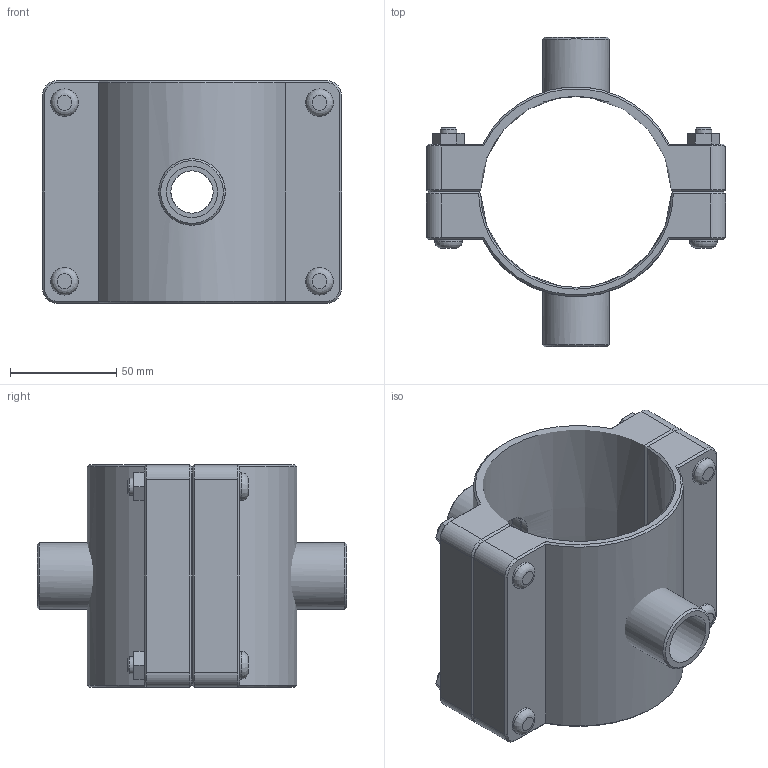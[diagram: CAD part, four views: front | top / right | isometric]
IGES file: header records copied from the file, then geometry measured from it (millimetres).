
Global section: file name: 161760090007_161860090007.ipt; native system: Autodesk Inventor 2015; preprocessor: unknown; author: KIM; date: 20170618.093725; units: millimetre
Bounding box: 141 x 146 x 105 mm (x, y, z)
Volume: 372136.3 mm3; surface area: 98739.5 mm2
Topology: 3 solids, 3 shells, 151 faces, 350 edges, 221 vertices
Faces by surface type: plane 84, cone 26, cylinder 24, revolution 17
Full cylindrical faces by diameter (mm): 8 x4, 13 x8, 31.352 x2
